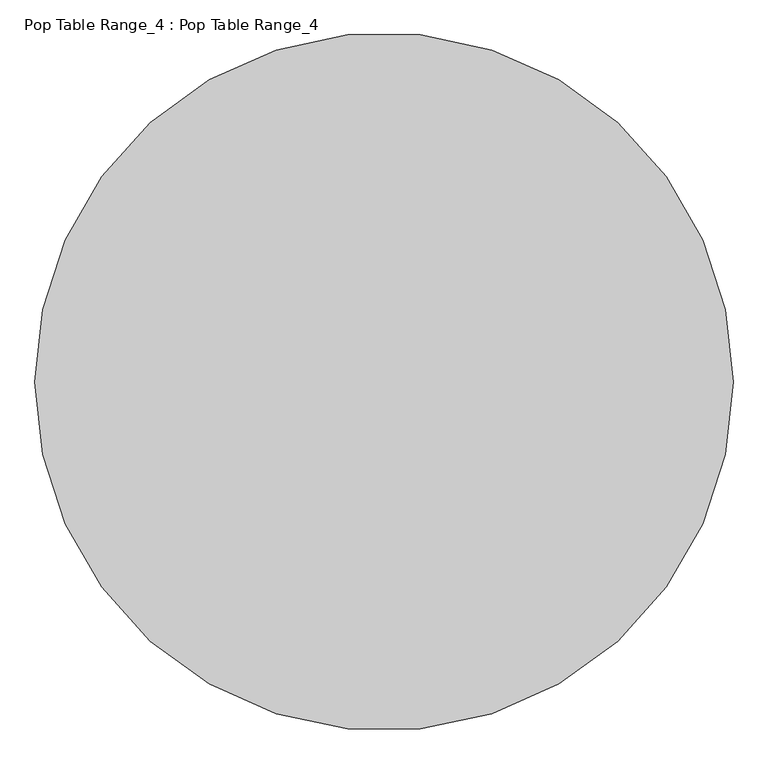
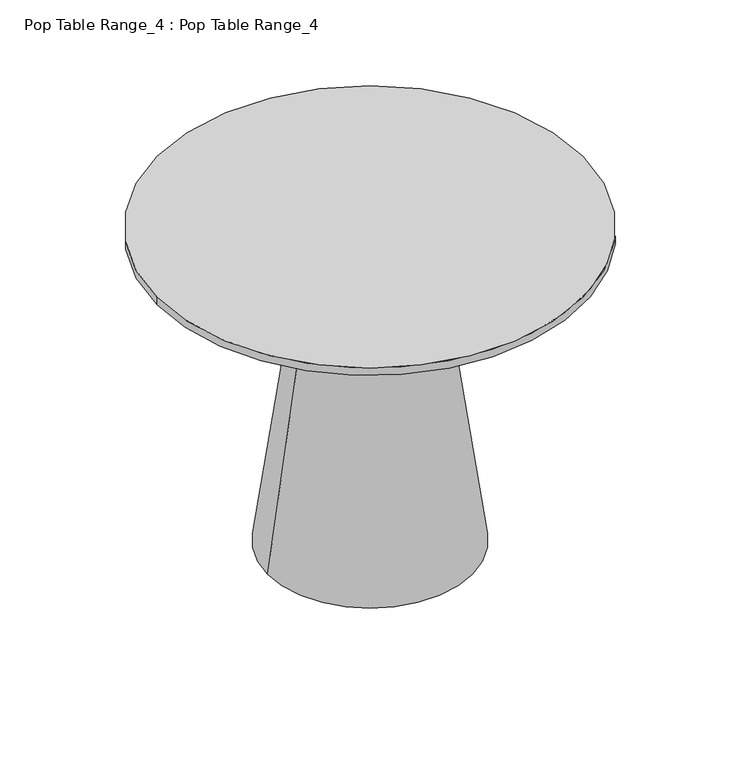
"""IFC4 building model written with IfcOpenShell, lengths in millimetres: proxy geometry, Pop Table Range_4 : Pop Table Range_4."""

from ifc_helpers import new_model, si_unit, point, frame, origin, origin_with_axes, origin_2d, place, context, project, spatial, polyline, circle_curve, trimmed, segment, composite_curve, outline, extrude, source, transform, mapped, element, save
from ifc_brep_helpers import plane_surface, revolved_surface, advanced_brep


def pop_table_range_4_pop_table_range_4_24706cb4(model_context):
    return source(origin(), model_context, "Body", "SolidModel", [
        extrude(outline(composite_curve([segment(trimmed(circle_curve(origin_2d(), 675.0), [point((-675.0, 0.0))], [point((675.0, 0.0))], False, "CARTESIAN"), True, "CONTINUOUS"), segment(trimmed(circle_curve(origin_2d(), 675.0), [point((675.0, 0.0))], [point((-675.0, 0.0))], False, "CARTESIAN"), True, "CONTINUOUS")], self_intersect=False)), frame((0.0, 0.0, 1025.0), z_axis=(0.0, 0.0, 1.0), x_axis=(1.0, 0.0, 0.0)), (0.0, 0.0, 1.0), 25.0),
        advanced_brep(
        [(180.7173786, 0.0, 1025.0), (-180.7173786, 0.0, 1025.0), (-324.7717342, 0.0, 0.0), (324.7717342, 0.0, 0.0), (299.7717342, 0.0, 0.0), (-299.7717342, 0.0, 0.0), (-155.7173786, 0.0, 1025.0), (155.7173786, 0.0, 1025.0)],
        [
            (0, 1, circle_curve(frame((0.0, 0.0, 1025.0), z_axis=(0.0, 0.0, -1.0), x_axis=(-1.0, 0.0, 0.0)), 180.7173786)),
            (1, 2),
            (2, 3, circle_curve(frame((0.0, 0.0, 0.0), z_axis=(0.0, 0.0, 1.0), x_axis=(-1.0, 0.0, 0.0)), 324.7717342)),
            (3, 0),
            (4, 5, circle_curve(frame((0.0, 0.0, 0.0), z_axis=(0.0, 0.0, -1.0), x_axis=(-1.0, 0.0, 0.0)), 299.7717342)),
            (5, 6),
            (6, 7, circle_curve(frame((0.0, 0.0, 1025.0), z_axis=(0.0, 0.0, 1.0), x_axis=(-1.0, 0.0, 0.0)), 155.7173786)),
            (7, 4),
            (2, 3, circle_curve(frame((0.0, 0.0, 0.0), z_axis=(0.0, 0.0, -1.0), x_axis=(1.0, 0.0, 0.0)), 324.7717342)),
            (4, 5, circle_curve(origin_with_axes(), 299.7717342)),
            (1, 0, circle_curve(frame((0.0, 0.0, 1025.0), z_axis=(0.0, 0.0, -1.0), x_axis=(1.0, 0.0, 0.0)), 180.7173786)),
            (6, 7, circle_curve(frame((0.0, 0.0, 1025.0), z_axis=(0.0, 0.0, -1.0), x_axis=(1.0, 0.0, 0.0)), 155.7173786)),
        ],
        [
            revolved_surface(polyline([(-324.7717342, 0.0, 0.0), (-180.7173786, 0.0, 1025.0)]), (0.0, 0.0, 0.0), (0.0, 0.0, 1.0)),
            revolved_surface(polyline([(-155.7173786, 0.0, 1025.0), (-299.7717342, 0.0, 0.0)]), (0.0, 0.0, 0.0), (0.0, 0.0, 1.0)),
            plane_surface(frame((0.0, 0.0, 0.0), z_axis=(0.0, 0.0, -1.0), x_axis=(1.0, 0.0, 0.0))),
            revolved_surface(polyline([(324.7717342, 0.0, 0.0), (180.7173786, 0.0, 1025.0)]), (0.0, 0.0, 0.0), (0.0, 0.0, 1.0)),
            plane_surface(frame((0.0, 0.0, 1025.0), z_axis=(0.0, 0.0, 1.0), x_axis=(1.0, 0.0, 0.0))),
            revolved_surface(polyline([(155.7173786, 0.0, 1025.0), (299.7717342, 0.0, 0.0)]), (0.0, 0.0, 0.0), (0.0, 0.0, 1.0)),
        ],
        [
            (0, [[1, 2, 3, 4]]),
            (1, [[5, 6, 7, 8]]),
            (2, [[9, -3], [10, -5]]),
            (3, [[11, -4, -9, -2]]),
            (4, [[-11, -1], [12, -7]]),
            (5, [[-10, -8, -12, -6]]),
        ],
    ),
    ])


if __name__ == "__main__":
    model = new_model("IFC4")
    model_context = context("Model", 3, world=origin())
    ifc_project = project(units=[si_unit("LENGTHUNIT", "METRE", prefix="MILLI")], contexts=[model_context])
    site = spatial("IfcSite", under=ifc_project)
    building = spatial("IfcBuilding", under=site)
    placement = place(None, origin())
    pop_table_range_4_pop_table_range_4_shape = pop_table_range_4_pop_table_range_4_24706cb4(model_context)
    element("IfcBuildingElementProxy", 1, Name="Pop Table Range_4 : Pop Table Range_4", ObjectType="Pop Table Range_4 : Pop Table Range_4", at=placement, inside=building, context=model_context, shape_type="MappedRepresentation", body=[
        mapped(pop_table_range_4_pop_table_range_4_shape, transform((0.0, 0.0, 0.0), x_axis=(1.0, 0.0, 0.0), y_axis=(0.0, 1.0, 0.0), z_axis=(0.0, 0.0, 1.0))),
    ])
    save(model, "model.ifc")
